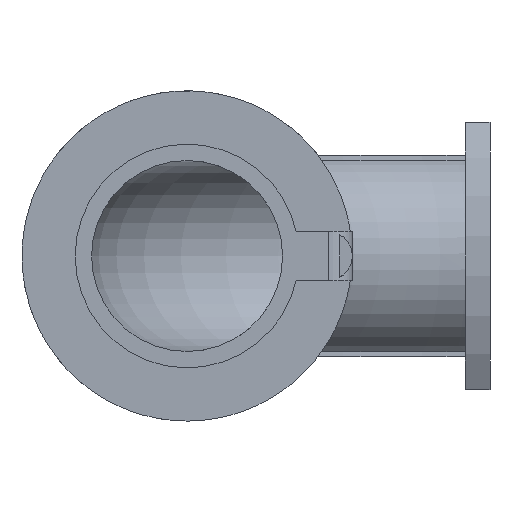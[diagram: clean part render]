
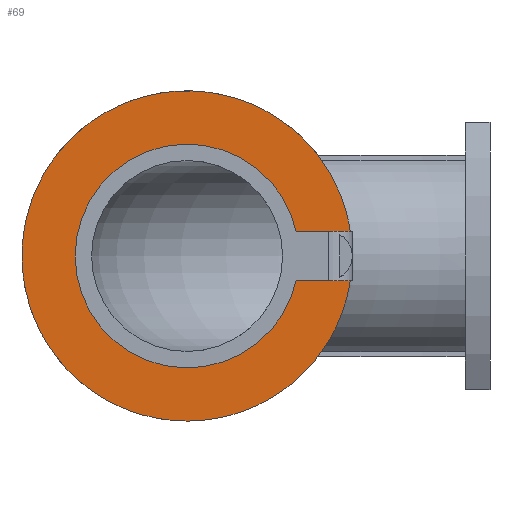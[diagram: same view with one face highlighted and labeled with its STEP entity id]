
A CAD part, front view. The second image highlights one B-rep face of the part: STEP entity #69.
In plain terms, the highlighted planar face has unit normal (0, -1, 0).
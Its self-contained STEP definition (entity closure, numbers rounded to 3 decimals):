
#69 = ADVANCED_FACE( '', ( #176 ), #177, .T. );
#176 = FACE_OUTER_BOUND( '', #340, .T. );
#177 = PLANE( '', #341 );
#340 = EDGE_LOOP( '', ( #498, #499, #500, #501, #502, #503, #504, #505 ) );
#341 = AXIS2_PLACEMENT_3D( '', #506, #507, #508 );
#498 = ORIENTED_EDGE( '', *, *, #886, .F. );
#499 = ORIENTED_EDGE( '', *, *, #887, .F. );
#500 = ORIENTED_EDGE( '', *, *, #888, .T. );
#501 = ORIENTED_EDGE( '', *, *, #889, .F. );
#502 = ORIENTED_EDGE( '', *, *, #890, .F. );
#503 = ORIENTED_EDGE( '', *, *, #891, .T. );
#504 = ORIENTED_EDGE( '', *, *, #892, .F. );
#505 = ORIENTED_EDGE( '', *, *, #893, .T. );
#506 = CARTESIAN_POINT( '', ( 41., -118., 0. ) );
#507 = DIRECTION( '', ( 0., -1., 0. ) );
#508 = DIRECTION( '', ( 0., 0., -1. ) );
#886 = EDGE_CURVE( '', #1035, #1036, #1037, .T. );
#887 = EDGE_CURVE( '', #1038, #1035, #1039, .F. );
#888 = EDGE_CURVE( '', #1038, #1040, #1041, .T. );
#889 = EDGE_CURVE( '', #1042, #1040, #1043, .T. );
#890 = EDGE_CURVE( '', #1044, #1042, #1045, .T. );
#891 = EDGE_CURVE( '', #1044, #1046, #1047, .T. );
#892 = EDGE_CURVE( '', #1036, #1046, #1048, .T. );
#893 = EDGE_CURVE( '', #1036, #1036, #1049, .T. );
#1035 = VERTEX_POINT( '', #1257 );
#1036 = VERTEX_POINT( '', #1258 );
#1037 = CIRCLE( '', #1259, 9. );
#1038 = VERTEX_POINT( '', #1260 );
#1039 = LINE( '', #1261, #1262 );
#1040 = VERTEX_POINT( '', #1263 );
#1041 = LINE( '', #1264, #1265 );
#1042 = VERTEX_POINT( '', #1266 );
#1043 = CIRCLE( '', #1267, 41. );
#1044 = VERTEX_POINT( '', #1268 );
#1045 = LINE( '', #1269, #1270 );
#1046 = VERTEX_POINT( '', #1271 );
#1047 = LINE( '', #1272, #1273 );
#1048 = CIRCLE( '', #1274, 9. );
#1049 = CIRCLE( '', #1275, 60.5 );
#1257 = CARTESIAN_POINT( '', ( 51.95, -118., -8.989 ) );
#1258 = CARTESIAN_POINT( '', ( 60.5, -118., 0. ) );
#1259 = AXIS2_PLACEMENT_3D( '', #2084, #2085, #2086 );
#1260 = CARTESIAN_POINT( '', ( 51.95, -118., -9. ) );
#1261 = CARTESIAN_POINT( '', ( 51.95, -118., 9. ) );
#1262 = VECTOR( '', #2087, 1000. );
#1263 = CARTESIAN_POINT( '', ( 40., -118., -9. ) );
#1264 = CARTESIAN_POINT( '', ( 51.95, -118., -9. ) );
#1265 = VECTOR( '', #2088, 1000. );
#1266 = CARTESIAN_POINT( '', ( 40., -118., 9. ) );
#1267 = AXIS2_PLACEMENT_3D( '', #2089, #2090, #2091 );
#1268 = CARTESIAN_POINT( '', ( 51.95, -118., 9. ) );
#1269 = CARTESIAN_POINT( '', ( 51.95, -118., 9. ) );
#1270 = VECTOR( '', #2092, 1000. );
#1271 = CARTESIAN_POINT( '', ( 51.95, -118., 8.989 ) );
#1272 = CARTESIAN_POINT( '', ( 51.95, -118., 9. ) );
#1273 = VECTOR( '', #2093, 1000. );
#1274 = AXIS2_PLACEMENT_3D( '', #2094, #2095, #2096 );
#1275 = AXIS2_PLACEMENT_3D( '', #2097, #2098, #2099 );
#2084 = CARTESIAN_POINT( '', ( 51.5, -118., 0. ) );
#2085 = DIRECTION( '', ( 0., -1., 0. ) );
#2086 = DIRECTION( '', ( 0., 0., -1. ) );
#2087 = DIRECTION( '', ( 0., 0., -1. ) );
#2088 = DIRECTION( '', ( -1., 0., 0. ) );
#2089 = CARTESIAN_POINT( '', ( 0., -118., 0. ) );
#2090 = DIRECTION( '', ( 0., -1., 0. ) );
#2091 = DIRECTION( '', ( 0., 0., -1. ) );
#2092 = DIRECTION( '', ( -1., 0., 0. ) );
#2093 = DIRECTION( '', ( 0., 0., -1. ) );
#2094 = CARTESIAN_POINT( '', ( 51.5, -118., 0. ) );
#2095 = DIRECTION( '', ( 0., -1., 0. ) );
#2096 = DIRECTION( '', ( 0., 0., -1. ) );
#2097 = CARTESIAN_POINT( '', ( 0., -118., 0. ) );
#2098 = DIRECTION( '', ( 0., -1., 0. ) );
#2099 = DIRECTION( '', ( 0., 0., -1. ) );
